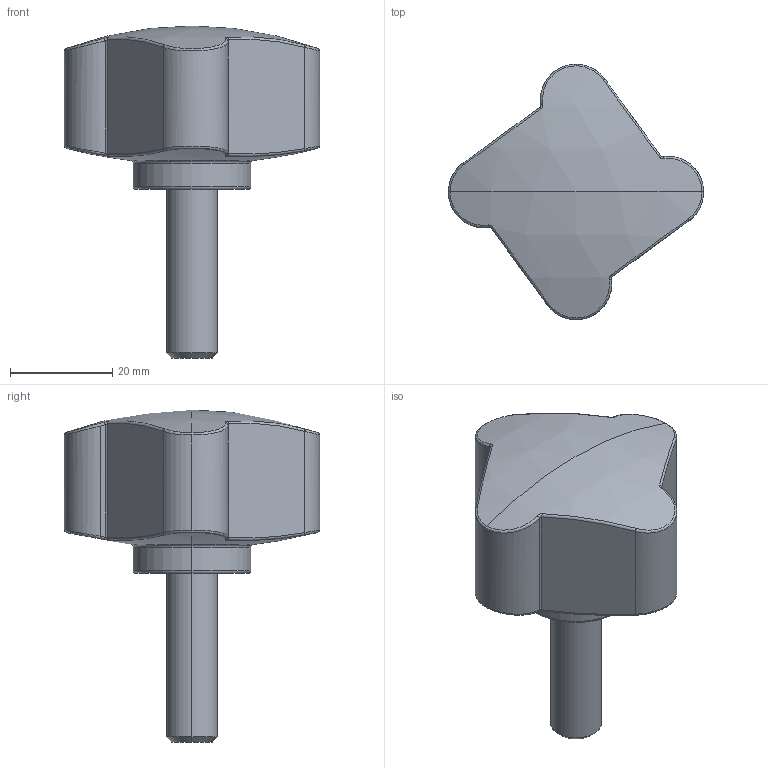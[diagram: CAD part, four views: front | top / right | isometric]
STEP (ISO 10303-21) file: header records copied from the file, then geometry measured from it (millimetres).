
FILE_DESCRIPTION (( 'STEP AP214' ), '1' );
FILE_NAME ('1120 50 501.STEP', '2010-11-26T15:32:55', ( 'Marc' ), ( '' ), 'SwSTEP 2.0', 'SolidWorks 2010', '' );
FILE_SCHEMA (( 'AUTOMOTIVE_DESIGN' ));
Length unit declared in the file: millimetre
Products named in the file (1): 1120 50 501
Bounding box: 50 x 50 x 65 mm (x, y, z)
Volume: 39397.3 mm3; surface area: 8170.2 mm2
Topology: 2 solids, 2 shells, 66 faces, 145 edges, 85 vertices
Faces by surface type: cylinder 19, torus 16, bspline 16, plane 9, sphere 4, cone 2
Entity records: 5453 total; most frequent: CARTESIAN_POINT 3856, ORIENTED_EDGE 290, DIRECTION 283, EDGE_CURVE 145, AXIS2_PLACEMENT_3D 129, VERTEX_POINT 85, CIRCLE 78, EDGE_LOOP 68
